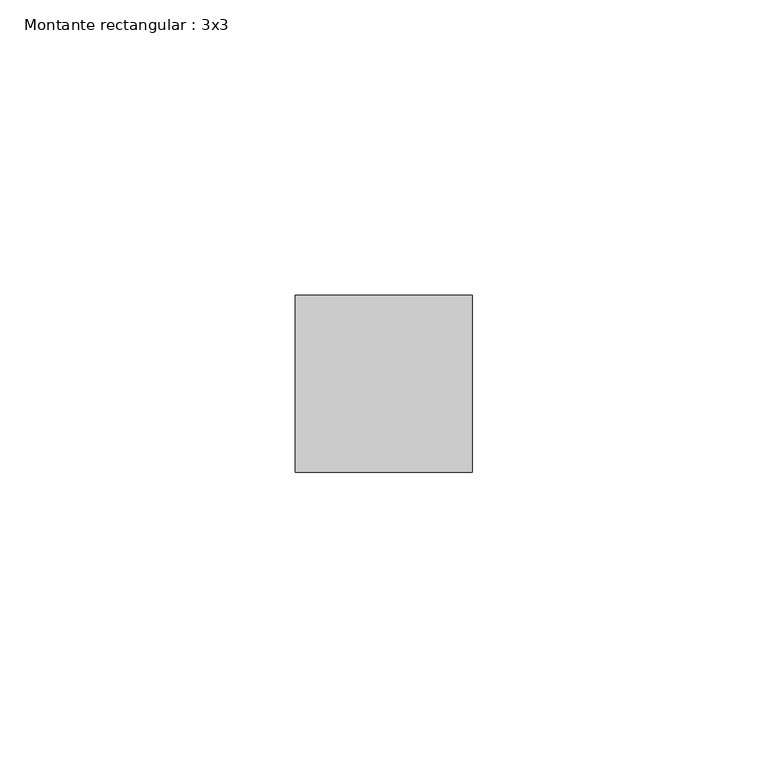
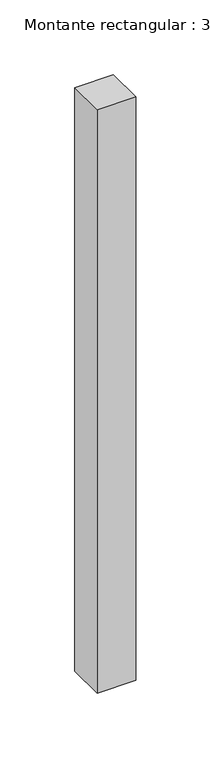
"""IFC4 building model written with IfcOpenShell, lengths in millimetres: member geometry, Montante rectangular : 3x3."""

from ifc_helpers import new_model, si_unit, frame, origin, place, context, project, spatial, polyline, outline, extrude, source, transform, mapped, element, save


def montante_rectangular_3x3_a8fc859d(model_context):
    return source(origin(), model_context, "Body", "SweptSolid", [
        extrude(outline(polyline([(15.0, 15.0), (15.0, -15.0), (-15.0, -15.0), (-15.0, 15.0), (15.0, 15.0)])), frame((0.0, 0.0, -477.05), z_axis=(0.0, 0.0, 1.0), x_axis=(1.0, 0.0, 0.0)), (0.0, 0.0, 1.0), 477.05),
    ])


if __name__ == "__main__":
    model = new_model("IFC4")
    model_context = context("Model", 3, world=origin())
    ifc_project = project(units=[si_unit("LENGTHUNIT", "METRE", prefix="MILLI")], contexts=[model_context])
    site = spatial("IfcSite", under=ifc_project)
    building = spatial("IfcBuilding", under=site)
    placement = place(None, origin())
    montante_rectangular_3x3_shape = montante_rectangular_3x3_a8fc859d(model_context)
    element("IfcMember", 1, ObjectType="Montante rectangular : 3x3", at=placement, inside=building, context=model_context, shape_type="MappedRepresentation", body=[
        mapped(montante_rectangular_3x3_shape, transform((0.0, 0.0, 0.0), x_axis=(1.0, 0.0, 0.0), y_axis=(0.0, 1.0, 0.0), z_axis=(0.0, 0.0, 1.0))),
    ])
    save(model, "model.ifc")
